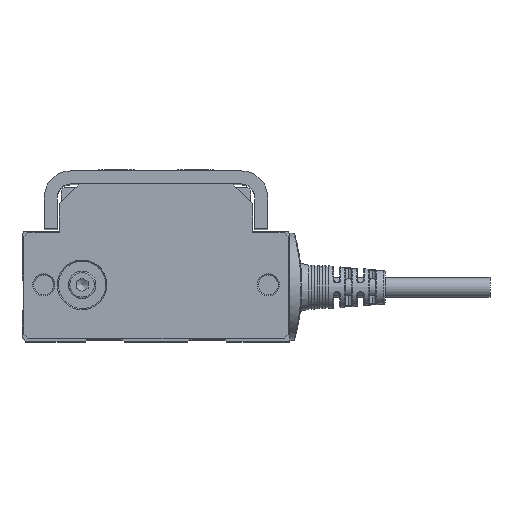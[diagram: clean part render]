
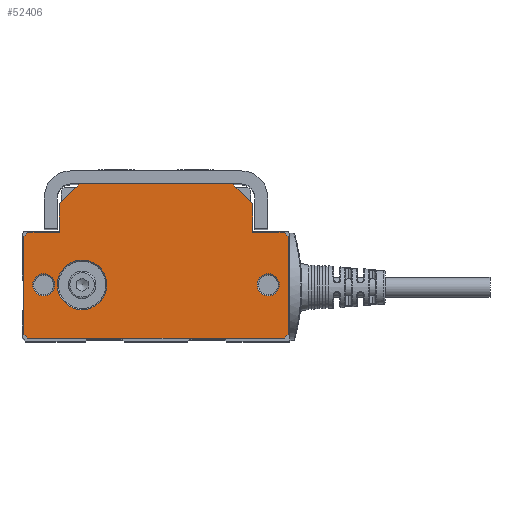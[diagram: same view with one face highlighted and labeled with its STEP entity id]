
A CAD part, top view. The second image highlights one B-rep face of the part: STEP entity #52406.
In plain terms, the highlighted planar face has unit normal (0, 0, 1).
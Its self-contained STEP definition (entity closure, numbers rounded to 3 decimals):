
#4340=FACE_BOUND('',#11315,.T.);
#4341=FACE_BOUND('',#11316,.T.);
#4342=FACE_BOUND('',#11317,.T.);
#5565=PLANE('',#57284);
#8272=FACE_OUTER_BOUND('',#11314,.T.);
#11314=EDGE_LOOP('',(#48822,#48823,#48824,#48825,#48826,#48827,#48828,#48829,
#48830,#48831,#48832,#48833,#48834,#48835));
#11315=EDGE_LOOP('',(#48836,#48837));
#11316=EDGE_LOOP('',(#48838,#48839));
#11317=EDGE_LOOP('',(#48840,#48841));
#15293=LINE('',#114781,#19288);
#15295=LINE('',#114785,#19290);
#15298=LINE('',#114791,#19293);
#15299=LINE('',#114793,#19294);
#15300=LINE('',#114795,#19295);
#15301=LINE('',#114797,#19296);
#15302=LINE('',#114799,#19297);
#15303=LINE('',#114801,#19298);
#15304=LINE('',#114803,#19299);
#15305=LINE('',#114805,#19300);
#15306=LINE('',#114807,#19301);
#15307=LINE('',#114809,#19302);
#15308=LINE('',#114811,#19303);
#15309=LINE('',#114812,#19304);
#19288=VECTOR('',#70222,10.);
#19290=VECTOR('',#70226,1000.);
#19293=VECTOR('',#70231,1000.);
#19294=VECTOR('',#70232,10.);
#19295=VECTOR('',#70233,1000.);
#19296=VECTOR('',#70234,1000.);
#19297=VECTOR('',#70235,1000.);
#19298=VECTOR('',#70236,1000.);
#19299=VECTOR('',#70237,1000.);
#19300=VECTOR('',#70238,1000.);
#19301=VECTOR('',#70239,1000.);
#19302=VECTOR('',#70240,1000.);
#19303=VECTOR('',#70241,1000.);
#19304=VECTOR('',#70242,1000.);
#21408=CIRCLE('',#57285,2.8);
#21409=CIRCLE('',#57286,2.8);
#21410=CIRCLE('',#57287,2.8);
#21411=CIRCLE('',#57288,2.8);
#21412=CIRCLE('',#57289,6.3);
#21413=CIRCLE('',#57290,6.3);
#26405=VERTEX_POINT('',#114778);
#26406=VERTEX_POINT('',#114780);
#26407=VERTEX_POINT('',#114784);
#26409=VERTEX_POINT('',#114790);
#26410=VERTEX_POINT('',#114792);
#26411=VERTEX_POINT('',#114794);
#26412=VERTEX_POINT('',#114796);
#26413=VERTEX_POINT('',#114798);
#26414=VERTEX_POINT('',#114800);
#26415=VERTEX_POINT('',#114802);
#26416=VERTEX_POINT('',#114804);
#26417=VERTEX_POINT('',#114806);
#26418=VERTEX_POINT('',#114808);
#26419=VERTEX_POINT('',#114810);
#26420=VERTEX_POINT('',#114813);
#26421=VERTEX_POINT('',#114814);
#26422=VERTEX_POINT('',#114817);
#26423=VERTEX_POINT('',#114818);
#26424=VERTEX_POINT('',#114821);
#26425=VERTEX_POINT('',#114822);
#33920=EDGE_CURVE('',#26405,#26406,#15293,.T.);
#33922=EDGE_CURVE('',#26406,#26407,#15295,.T.);
#33925=EDGE_CURVE('',#26405,#26409,#15298,.T.);
#33926=EDGE_CURVE('',#26410,#26409,#15299,.T.);
#33927=EDGE_CURVE('',#26411,#26410,#15300,.T.);
#33928=EDGE_CURVE('',#26412,#26411,#15301,.T.);
#33929=EDGE_CURVE('',#26412,#26413,#15302,.T.);
#33930=EDGE_CURVE('',#26413,#26414,#15303,.T.);
#33931=EDGE_CURVE('',#26414,#26415,#15304,.T.);
#33932=EDGE_CURVE('',#26416,#26415,#15305,.T.);
#33933=EDGE_CURVE('',#26416,#26417,#15306,.T.);
#33934=EDGE_CURVE('',#26417,#26418,#15307,.T.);
#33935=EDGE_CURVE('',#26418,#26419,#15308,.T.);
#33936=EDGE_CURVE('',#26407,#26419,#15309,.T.);
#33937=EDGE_CURVE('',#26420,#26421,#21408,.T.);
#33938=EDGE_CURVE('',#26421,#26420,#21409,.T.);
#33939=EDGE_CURVE('',#26422,#26423,#21410,.T.);
#33940=EDGE_CURVE('',#26423,#26422,#21411,.T.);
#33941=EDGE_CURVE('',#26424,#26425,#21412,.T.);
#33942=EDGE_CURVE('',#26425,#26424,#21413,.T.);
#48822=ORIENTED_EDGE('',*,*,#33920,.F.);
#48823=ORIENTED_EDGE('',*,*,#33925,.T.);
#48824=ORIENTED_EDGE('',*,*,#33926,.F.);
#48825=ORIENTED_EDGE('',*,*,#33927,.F.);
#48826=ORIENTED_EDGE('',*,*,#33928,.F.);
#48827=ORIENTED_EDGE('',*,*,#33929,.T.);
#48828=ORIENTED_EDGE('',*,*,#33930,.T.);
#48829=ORIENTED_EDGE('',*,*,#33931,.T.);
#48830=ORIENTED_EDGE('',*,*,#33932,.F.);
#48831=ORIENTED_EDGE('',*,*,#33933,.T.);
#48832=ORIENTED_EDGE('',*,*,#33934,.T.);
#48833=ORIENTED_EDGE('',*,*,#33935,.T.);
#48834=ORIENTED_EDGE('',*,*,#33936,.F.);
#48835=ORIENTED_EDGE('',*,*,#33922,.F.);
#48836=ORIENTED_EDGE('',*,*,#33937,.T.);
#48837=ORIENTED_EDGE('',*,*,#33938,.T.);
#48838=ORIENTED_EDGE('',*,*,#33939,.T.);
#48839=ORIENTED_EDGE('',*,*,#33940,.T.);
#48840=ORIENTED_EDGE('',*,*,#33941,.T.);
#48841=ORIENTED_EDGE('',*,*,#33942,.T.);
#52406=ADVANCED_FACE('',(#8272,#4340,#4341,#4342),#5565,.T.);
#57284=AXIS2_PLACEMENT_3D('',#114789,#70229,#70230);
#57285=AXIS2_PLACEMENT_3D('',#114815,#70243,#70244);
#57286=AXIS2_PLACEMENT_3D('',#114816,#70245,#70246);
#57287=AXIS2_PLACEMENT_3D('',#114819,#70247,#70248);
#57288=AXIS2_PLACEMENT_3D('',#114820,#70249,#70250);
#57289=AXIS2_PLACEMENT_3D('',#114823,#70251,#70252);
#57290=AXIS2_PLACEMENT_3D('',#114824,#70253,#70254);
#70222=DIRECTION('',(0.707,-0.707,0.));
#70226=DIRECTION('',(0.,-1.,0.));
#70229=DIRECTION('center_axis',(0.,0.,1.));
#70230=DIRECTION('ref_axis',(1.,0.,0.));
#70231=DIRECTION('',(-1.,0.,0.));
#70232=DIRECTION('',(0.707,0.707,0.));
#70233=DIRECTION('',(0.,1.,0.));
#70234=DIRECTION('',(1.,0.,0.));
#70235=DIRECTION('',(-0.707,-0.707,0.));
#70236=DIRECTION('',(0.,-1.,0.));
#70237=DIRECTION('',(0.707,-0.707,0.));
#70238=DIRECTION('',(-1.,0.,0.));
#70239=DIRECTION('',(0.707,0.707,0.));
#70240=DIRECTION('',(0.,1.,0.));
#70241=DIRECTION('',(-0.707,0.707,0.));
#70242=DIRECTION('',(1.,0.,0.));
#70243=DIRECTION('center_axis',(0.,0.,-1.));
#70244=DIRECTION('ref_axis',(1.,0.,0.));
#70245=DIRECTION('center_axis',(0.,0.,-1.));
#70246=DIRECTION('ref_axis',(1.,0.,0.));
#70247=DIRECTION('center_axis',(0.,0.,-1.));
#70248=DIRECTION('ref_axis',(1.,0.,0.));
#70249=DIRECTION('center_axis',(0.,0.,-1.));
#70250=DIRECTION('ref_axis',(1.,0.,0.));
#70251=DIRECTION('center_axis',(0.,0.,-1.));
#70252=DIRECTION('ref_axis',(1.,0.,0.));
#70253=DIRECTION('center_axis',(0.,0.,-1.));
#70254=DIRECTION('ref_axis',(1.,0.,0.));
#114778=CARTESIAN_POINT('',(19.5,19.575,0.));
#114780=CARTESIAN_POINT('',(24.5,14.575,0.));
#114781=CARTESIAN_POINT('',(20.769,18.306,0.));
#114784=CARTESIAN_POINT('',(24.5,7.275,0.));
#114785=CARTESIAN_POINT('',(24.5,20.025,0.));
#114789=CARTESIAN_POINT('Origin',(0.,0.,0.));
#114790=CARTESIAN_POINT('',(-19.5,19.575,0.));
#114791=CARTESIAN_POINT('',(-33.5,19.575,0.));
#114792=CARTESIAN_POINT('',(-24.5,14.575,0.));
#114793=CARTESIAN_POINT('',(-20.769,18.306,0.));
#114794=CARTESIAN_POINT('',(-24.5,7.275,0.));
#114795=CARTESIAN_POINT('',(-24.5,20.025,0.));
#114796=CARTESIAN_POINT('',(-32.5,7.275,0.));
#114797=CARTESIAN_POINT('',(-33.5,7.275,0.));
#114798=CARTESIAN_POINT('',(-33.5,6.275,0.));
#114799=CARTESIAN_POINT('',(-19.888,19.888,0.));
#114800=CARTESIAN_POINT('',(-33.5,-18.525,0.));
#114801=CARTESIAN_POINT('',(-33.5,20.025,0.));
#114802=CARTESIAN_POINT('',(-32.5,-19.525,0.));
#114803=CARTESIAN_POINT('',(-26.013,-26.012,0.));
#114804=CARTESIAN_POINT('',(32.5,-19.525,0.));
#114805=CARTESIAN_POINT('',(33.5,-19.525,0.));
#114806=CARTESIAN_POINT('',(33.5,-18.525,0.));
#114807=CARTESIAN_POINT('',(26.013,-26.012,0.));
#114808=CARTESIAN_POINT('',(33.5,6.275,0.));
#114809=CARTESIAN_POINT('',(33.5,20.025,0.));
#114810=CARTESIAN_POINT('',(32.5,7.275,0.));
#114811=CARTESIAN_POINT('',(19.888,19.888,0.));
#114812=CARTESIAN_POINT('',(33.5,7.275,0.));
#114813=CARTESIAN_POINT('',(31.3,-6.025,0.));
#114814=CARTESIAN_POINT('',(25.7,-6.025,0.));
#114815=CARTESIAN_POINT('Origin',(28.5,-6.025,0.));
#114816=CARTESIAN_POINT('Origin',(28.5,-6.025,0.));
#114817=CARTESIAN_POINT('',(-25.7,-6.025,0.));
#114818=CARTESIAN_POINT('',(-31.3,-6.025,0.));
#114819=CARTESIAN_POINT('Origin',(-28.5,-6.025,0.));
#114820=CARTESIAN_POINT('Origin',(-28.5,-6.025,0.));
#114821=CARTESIAN_POINT('',(-12.45,-6.025,0.));
#114822=CARTESIAN_POINT('',(-25.05,-6.025,0.));
#114823=CARTESIAN_POINT('Origin',(-18.75,-6.025,0.));
#114824=CARTESIAN_POINT('Origin',(-18.75,-6.025,0.));
